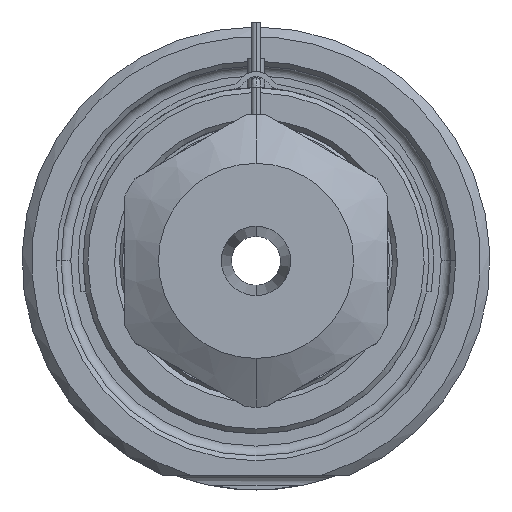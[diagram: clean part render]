
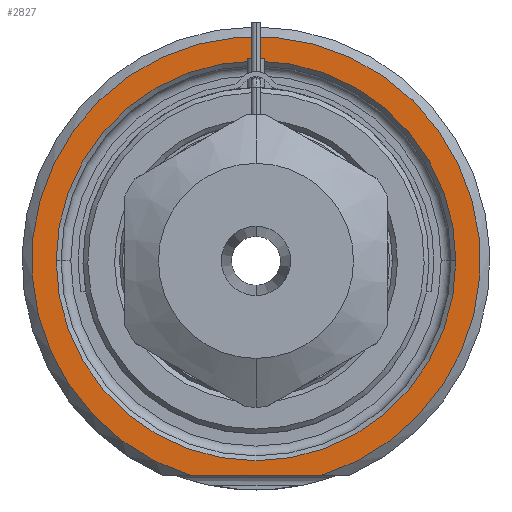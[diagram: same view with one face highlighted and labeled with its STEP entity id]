
A CAD part, front view. The second image highlights one B-rep face of the part: STEP entity #2827.
In plain terms, the highlighted planar face has unit normal (0, -1, 0).
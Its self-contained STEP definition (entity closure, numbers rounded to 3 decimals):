
#1=DIRECTION('',(1.,0.,0.));
#2=VECTOR('',#1,13.416);
#3=CARTESIAN_POINT('',(-6.708,0.,-22.));
#4=LINE('',#3,#2);
#5=CARTESIAN_POINT('',(0.,0.,0.));
#6=DIRECTION('',(0.,1.,0.));
#7=DIRECTION('',(-1.,0.,0.));
#8=AXIS2_PLACEMENT_3D('',#5,#6,#7);
#10=CARTESIAN_POINT('',(0.,0.,0.));
#11=DIRECTION('',(0.,1.,0.));
#12=DIRECTION('',(1.,0.,0.));
#13=AXIS2_PLACEMENT_3D('',#10,#11,#12);
#121=CARTESIAN_POINT('',(0.,0.,0.));
#122=DIRECTION('',(0.,-1.,0.));
#123=DIRECTION('',(0.292,0.,-0.957));
#124=AXIS2_PLACEMENT_3D('',#121,#122,#123);
#2341=CARTESIAN_POINT('',(-20.5,0.,0.));
#2342=CARTESIAN_POINT('',(20.5,0.,0.));
#2343=VERTEX_POINT('',#2341);
#2344=VERTEX_POINT('',#2342);
#2381=CARTESIAN_POINT('',(-6.708,0.,-22.));
#2382=CARTESIAN_POINT('',(6.708,0.,-22.));
#2383=VERTEX_POINT('',#2381);
#2384=VERTEX_POINT('',#2382);
#2810=CARTESIAN_POINT('',(0.,0.,0.));
#2811=DIRECTION('',(0.,-1.,0.));
#2812=DIRECTION('',(1.,0.,0.));
#2813=AXIS2_PLACEMENT_3D('',#2810,#2811,#2812);
#2814=PLANE('',#2813);
#2816=ORIENTED_EDGE('',*,*,#2815,.F.);
#2818=ORIENTED_EDGE('',*,*,#2817,.F.);
#2819=EDGE_LOOP('',(#2816,#2818));
#2820=FACE_OUTER_BOUND('',#2819,.F.);
#2822=ORIENTED_EDGE('',*,*,#2821,.F.);
#2824=ORIENTED_EDGE('',*,*,#2823,.F.);
#2825=EDGE_LOOP('',(#2822,#2824));
#2826=FACE_BOUND('',#2825,.F.);
#2827=ADVANCED_FACE('',(#2820,#2826),#2814,.T.);
#9=CIRCLE('',#8,20.5);
#14=CIRCLE('',#13,20.5);
#125=CIRCLE('',#124,23.);
#2815=EDGE_CURVE('',#2383,#2384,#4,.T.);
#2817=EDGE_CURVE('',#2384,#2383,#125,.T.);
#2821=EDGE_CURVE('',#2343,#2344,#9,.T.);
#2823=EDGE_CURVE('',#2344,#2343,#14,.T.);
